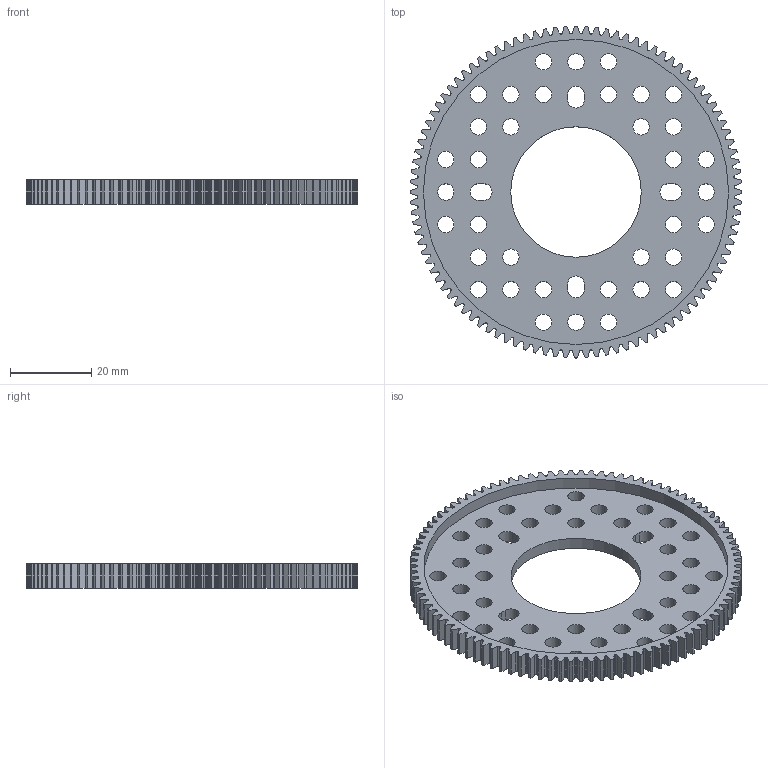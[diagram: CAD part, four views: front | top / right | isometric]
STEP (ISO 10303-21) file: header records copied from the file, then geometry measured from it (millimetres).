
FILE_DESCRIPTION (( 'STEP AP203' ), '1' );
FILE_NAME ('2302-0032-0100.STEP', '2017-04-06T20:21:00', ( '' ), ( '' ), 'SwSTEP 2.0', 'SolidWorks 2016', '' );
FILE_SCHEMA (( 'CONFIG_CONTROL_DESIGN' ));
Length unit declared in the file: millimetre
Products named in the file (1): 2302-0032-0100
Bounding box: 81.6 x 81.6 x 6 mm (x, y, z)
Volume: 12841.6 mm3; surface area: 12865 mm2
Topology: 1 solids, 1 shells, 898 faces, 2685 edges, 1790 vertices
Faces by surface type: bspline 400, cylinder 287, plane 211
Entity records: 43184 total; most frequent: CARTESIAN_POINT 20974, ORIENTED_EDGE 5370, DIRECTION 3457, EDGE_CURVE 2685, VERTEX_POINT 1790, LINE 1311, VECTOR 1311, AXIS2_PLACEMENT_3D 1073
